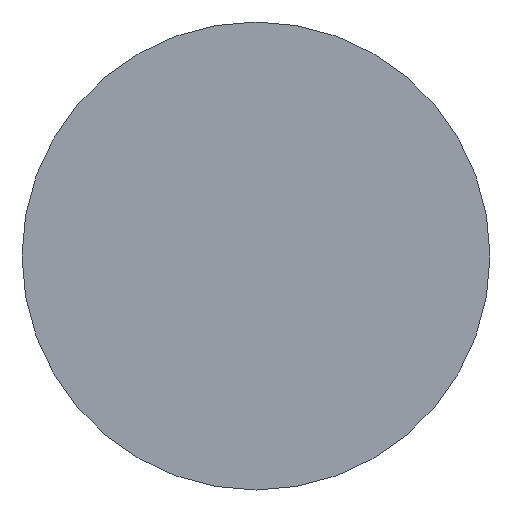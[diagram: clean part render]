
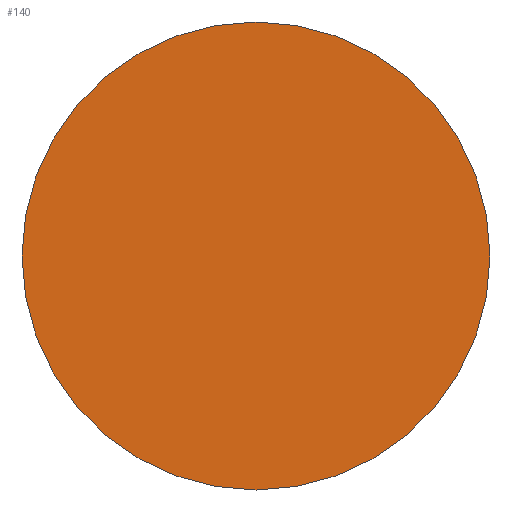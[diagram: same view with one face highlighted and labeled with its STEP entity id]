
A CAD part, left-side view. The second image highlights one B-rep face of the part: STEP entity #140.
In plain terms, the highlighted planar face has unit normal (-1, 0, 0).
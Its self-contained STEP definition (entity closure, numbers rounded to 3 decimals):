
#31 = CYLINDRICAL_SURFACE('',#32,1.55);
#32 = AXIS2_PLACEMENT_3D('',#33,#34,#35);
#33 = CARTESIAN_POINT('',(26.65,-35.,3.65));
#34 = DIRECTION('',(1.,0.,0.));
#35 = DIRECTION('',(0.,0.,-1.));
#56 = VERTEX_POINT('',#57);
#57 = CARTESIAN_POINT('',(26.65,-35.,2.1));
#78 = EDGE_CURVE('',#56,#56,#79,.T.);
#79 = SURFACE_CURVE('',#80,(#85,#92),.PCURVE_S1.);
#80 = CIRCLE('',#81,1.55);
#81 = AXIS2_PLACEMENT_3D('',#82,#83,#84);
#82 = CARTESIAN_POINT('',(26.65,-35.,3.65));
#83 = DIRECTION('',(1.,-0.,0.));
#84 = DIRECTION('',(0.,0.,-1.));
#85 = PCURVE('',#31,#86);
#86 = DEFINITIONAL_REPRESENTATION('',(#87),#91);
#87 = LINE('',#88,#89);
#88 = CARTESIAN_POINT('',(0.,0.));
#89 = VECTOR('',#90,1.);
#90 = DIRECTION('',(1.,0.));
#91 = ( GEOMETRIC_REPRESENTATION_CONTEXT(2) 
PARAMETRIC_REPRESENTATION_CONTEXT() REPRESENTATION_CONTEXT('2D SPACE',''
  ) );
#92 = PCURVE('',#93,#98);
#93 = PLANE('',#94);
#94 = AXIS2_PLACEMENT_3D('',#95,#96,#97);
#95 = CARTESIAN_POINT('',(26.65,-35.,3.65));
#96 = DIRECTION('',(1.,0.,0.));
#97 = DIRECTION('',(0.,0.,-1.));
#98 = DEFINITIONAL_REPRESENTATION('',(#99),#103);
#99 = CIRCLE('',#100,1.55);
#100 = AXIS2_PLACEMENT_2D('',#101,#102);
#101 = CARTESIAN_POINT('',(0.,0.));
#102 = DIRECTION('',(1.,0.));
#103 = ( GEOMETRIC_REPRESENTATION_CONTEXT(2) 
PARAMETRIC_REPRESENTATION_CONTEXT() REPRESENTATION_CONTEXT('2D SPACE',''
  ) );
#140 = ADVANCED_FACE('',(#141),#93,.F.);
#141 = FACE_BOUND('',#142,.T.);
#142 = EDGE_LOOP('',(#143));
#143 = ORIENTED_EDGE('',*,*,#78,.F.);
